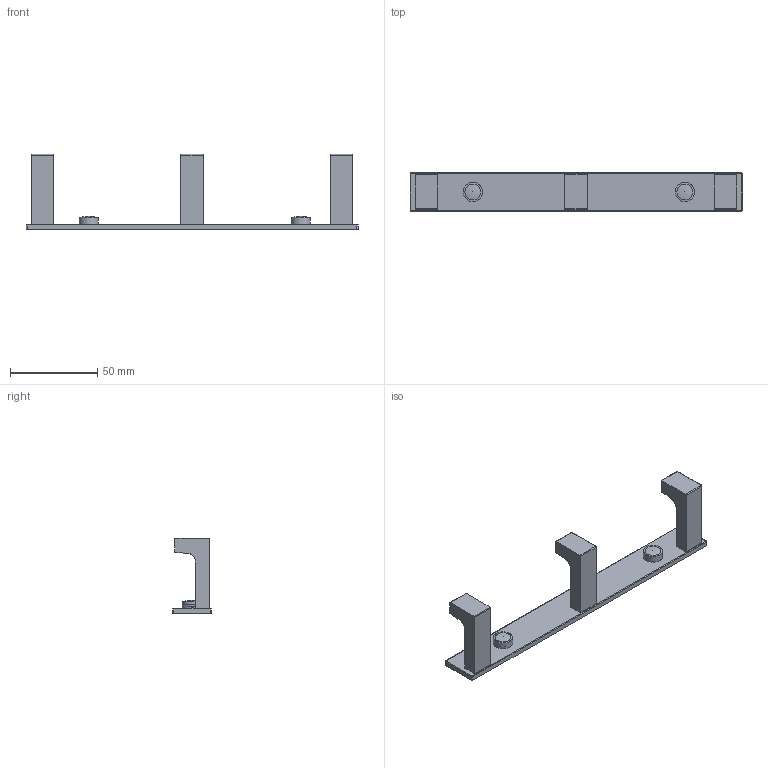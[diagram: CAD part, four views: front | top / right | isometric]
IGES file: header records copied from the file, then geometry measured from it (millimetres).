
Global section: file name: 8949facf-c27e-475c-80e7-b152e70dc312; native system: unknown; preprocessor: unknown; author: unknown; organization: unknown; date: 20200109.072519; units: millimetre
Bounding box: 190 x 22 x 43 mm (x, y, z)
Volume: 29548.5 mm3; surface area: 18402.6 mm2
Topology: 8 solids, 8 shells, 162 faces, 380 edges, 196 vertices
Faces by surface type: bspline 162
